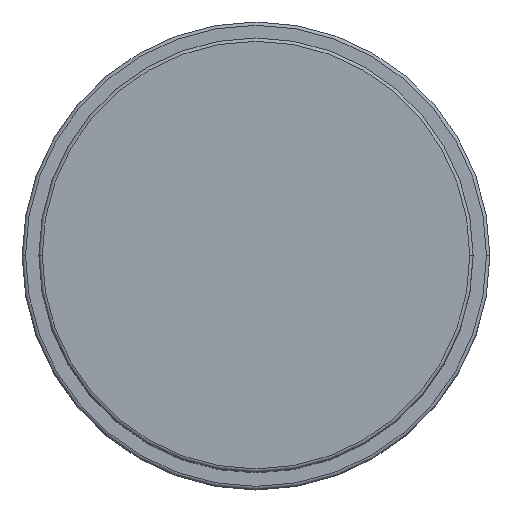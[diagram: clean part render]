
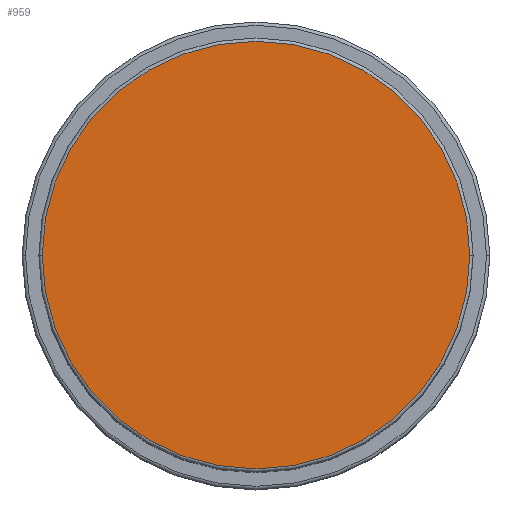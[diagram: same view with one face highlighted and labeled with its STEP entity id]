
A CAD part, top view. The second image highlights one B-rep face of the part: STEP entity #959.
In plain terms, the highlighted planar face has unit normal (0, 0, 1).
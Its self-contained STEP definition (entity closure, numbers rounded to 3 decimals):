
#25 = DIRECTION ( 'NONE',  ( 0., 0., 1. ) ) ;
#61 = DIRECTION ( 'NONE',  ( 0., 0., 1. ) ) ;
#103 = AXIS2_PLACEMENT_3D ( 'NONE', #218, #714, #352 ) ;
#151 = CIRCLE ( 'NONE', #869, 32. ) ;
#218 = CARTESIAN_POINT ( 'NONE',  ( 0., 0., 92. ) ) ;
#352 = DIRECTION ( 'NONE',  ( 1., 0., 0. ) ) ;
#469 = VERTEX_POINT ( 'NONE', #1368 ) ;
#613 = AXIS2_PLACEMENT_3D ( 'NONE', #955, #61, #1209 ) ;
#648 = DIRECTION ( 'NONE',  ( 1., 0., 0. ) ) ;
#714 = DIRECTION ( 'NONE',  ( 0., 0., 1. ) ) ;
#749 = EDGE_LOOP ( 'NONE', ( #1552, #1287 ) ) ;
#821 = PLANE ( 'NONE',  #613 ) ;
#869 = AXIS2_PLACEMENT_3D ( 'NONE', #1430, #25, #648 ) ;
#955 = CARTESIAN_POINT ( 'NONE',  ( 0., 0., 92. ) ) ;
#959 = ADVANCED_FACE ( 'NONE', ( #1408 ), #821, .T. ) ;
#1054 = EDGE_CURVE ( 'NONE', #1279, #469, #1247, .T. ) ;
#1209 = DIRECTION ( 'NONE',  ( 1., 0., 0. ) ) ;
#1247 = CIRCLE ( 'NONE', #103, 32. ) ;
#1272 = CARTESIAN_POINT ( 'NONE',  ( 32., 0., 92. ) ) ;
#1279 = VERTEX_POINT ( 'NONE', #1272 ) ;
#1287 = ORIENTED_EDGE ( 'NONE', *, *, #1319, .T. ) ;
#1319 = EDGE_CURVE ( 'NONE', #469, #1279, #151, .T. ) ;
#1368 = CARTESIAN_POINT ( 'NONE',  ( -32., 0., 92. ) ) ;
#1408 = FACE_OUTER_BOUND ( 'NONE', #749, .T. ) ;
#1430 = CARTESIAN_POINT ( 'NONE',  ( 0., 0., 92. ) ) ;
#1552 = ORIENTED_EDGE ( 'NONE', *, *, #1054, .T. ) ;
